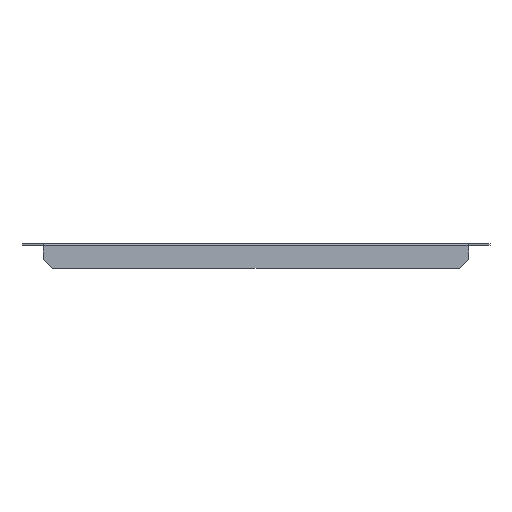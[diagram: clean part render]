
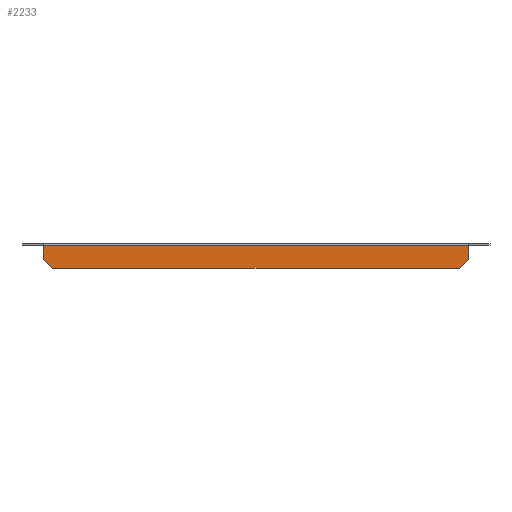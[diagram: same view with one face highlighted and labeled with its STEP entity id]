
A CAD part, front view. The second image highlights one B-rep face of the part: STEP entity #2233.
In plain terms, the highlighted planar face has unit normal (0, -1, 0).
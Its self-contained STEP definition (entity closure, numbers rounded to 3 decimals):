
#69 = CARTESIAN_POINT ( 'NONE',  ( 448.5, 0., -2.237 ) ) ;
#86 = LINE ( 'NONE', #1281, #1431 ) ;
#114 = VERTEX_POINT ( 'NONE', #1958 ) ;
#247 = CARTESIAN_POINT ( 'NONE',  ( 21.5, 0., -1.5 ) ) ;
#272 = CARTESIAN_POINT ( 'NONE',  ( 21.5, 0., -15.808 ) ) ;
#273 = VERTEX_POINT ( 'NONE', #2036 ) ;
#317 = VECTOR ( 'NONE', #1317, 1000. ) ;
#362 = VECTOR ( 'NONE', #868, 1000. ) ;
#374 = ORIENTED_EDGE ( 'NONE', *, *, #1253, .T. ) ;
#464 = CARTESIAN_POINT ( 'NONE',  ( 448.5, 0., -2.237 ) ) ;
#496 = ORIENTED_EDGE ( 'NONE', *, *, #1292, .T. ) ;
#505 = DIRECTION ( 'NONE',  ( 1., 0., 0. ) ) ;
#538 = VERTEX_POINT ( 'NONE', #793 ) ;
#539 = CARTESIAN_POINT ( 'NONE',  ( 21.5, 0., -25. ) ) ;
#776 = LINE ( 'NONE', #2081, #317 ) ;
#793 = CARTESIAN_POINT ( 'NONE',  ( 21.5, 0., -2.237 ) ) ;
#813 = LINE ( 'NONE', #1993, #1724 ) ;
#840 = LINE ( 'NONE', #880, #362 ) ;
#867 = VECTOR ( 'NONE', #505, 1000. ) ;
#868 = DIRECTION ( 'NONE',  ( 0., 0., -1. ) ) ;
#880 = CARTESIAN_POINT ( 'NONE',  ( 21.5, 0., -1.5 ) ) ;
#915 = DIRECTION ( 'NONE',  ( 1., 0., 0. ) ) ;
#1002 = CARTESIAN_POINT ( 'NONE',  ( 30.692, 0., -25. ) ) ;
#1025 = EDGE_LOOP ( 'NONE', ( #2211, #1085, #1463, #374, #1728, #496 ) ) ;
#1085 = ORIENTED_EDGE ( 'NONE', *, *, #1387, .T. ) ;
#1090 = DIRECTION ( 'NONE',  ( 0.707, 0., 0.707 ) ) ;
#1120 = DIRECTION ( 'NONE',  ( 0., 1., 0. ) ) ;
#1185 = LINE ( 'NONE', #464, #2068 ) ;
#1253 = EDGE_CURVE ( 'NONE', #1935, #273, #1778, .T. ) ;
#1281 = CARTESIAN_POINT ( 'NONE',  ( 242.154, 0., -222.154 ) ) ;
#1292 = EDGE_CURVE ( 'NONE', #114, #2191, #813, .T. ) ;
#1317 = DIRECTION ( 'NONE',  ( 0.707, 0., -0.707 ) ) ;
#1387 = EDGE_CURVE ( 'NONE', #538, #1787, #840, .T. ) ;
#1431 = VECTOR ( 'NONE', #1090, 1000. ) ;
#1434 = EDGE_CURVE ( 'NONE', #538, #2191, #1185, .T. ) ;
#1463 = ORIENTED_EDGE ( 'NONE', *, *, #1880, .T. ) ;
#1523 = AXIS2_PLACEMENT_3D ( 'NONE', #247, #1120, #1889 ) ;
#1543 = EDGE_CURVE ( 'NONE', #273, #114, #86, .T. ) ;
#1545 = PLANE ( 'NONE',  #1523 ) ;
#1724 = VECTOR ( 'NONE', #1840, 1000. ) ;
#1728 = ORIENTED_EDGE ( 'NONE', *, *, #1543, .T. ) ;
#1778 = LINE ( 'NONE', #539, #867 ) ;
#1787 = VERTEX_POINT ( 'NONE', #272 ) ;
#1840 = DIRECTION ( 'NONE',  ( 0., 0., 1. ) ) ;
#1880 = EDGE_CURVE ( 'NONE', #1787, #1935, #776, .T. ) ;
#1888 = FACE_OUTER_BOUND ( 'NONE', #1025, .T. ) ;
#1889 = DIRECTION ( 'NONE',  ( 0., 0., 1. ) ) ;
#1935 = VERTEX_POINT ( 'NONE', #1002 ) ;
#1958 = CARTESIAN_POINT ( 'NONE',  ( 448.5, 0., -15.808 ) ) ;
#1993 = CARTESIAN_POINT ( 'NONE',  ( 448.5, 0., -1.5 ) ) ;
#2036 = CARTESIAN_POINT ( 'NONE',  ( 439.308, 0., -25. ) ) ;
#2068 = VECTOR ( 'NONE', #915, 1000. ) ;
#2081 = CARTESIAN_POINT ( 'NONE',  ( 14.346, 0., -8.654 ) ) ;
#2191 = VERTEX_POINT ( 'NONE', #69 ) ;
#2211 = ORIENTED_EDGE ( 'NONE', *, *, #1434, .F. ) ;
#2233 = ADVANCED_FACE ( 'NONE', ( #1888 ), #1545, .F. ) ;
